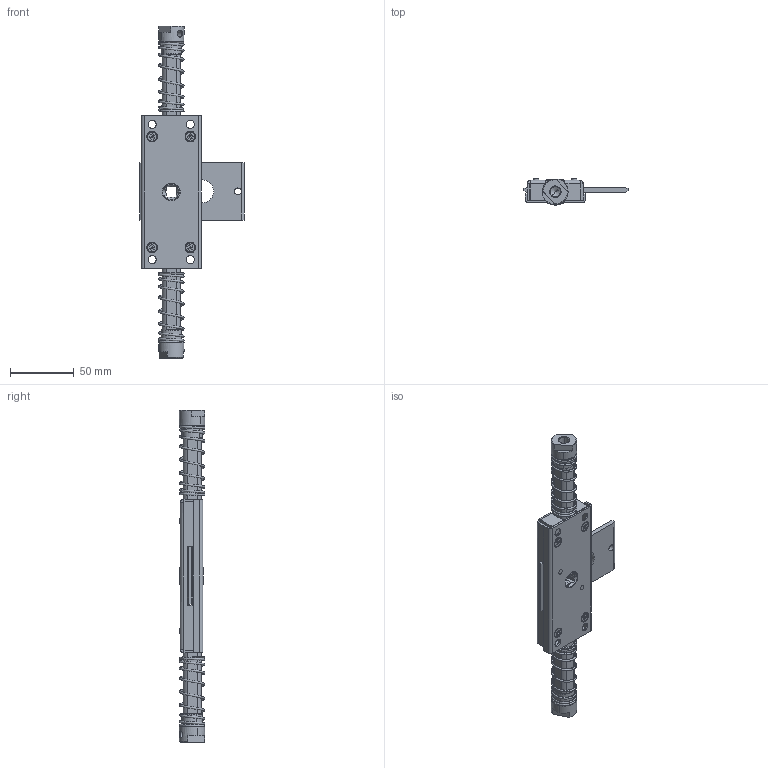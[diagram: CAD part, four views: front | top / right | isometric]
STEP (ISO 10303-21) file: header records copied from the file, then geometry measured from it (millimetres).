
FILE_DESCRIPTION (( 'STEP AP214' ), '1' );
FILE_NAME ('1B.ZW8.L - zamek wewnetrzny ZW.STEP', '2016-09-07T09:39:51', ( '' ), ( '' ), 'SwSTEP 2.0', 'SolidWorks 2015', '' );
FILE_SCHEMA (( 'AUTOMOTIVE_DESIGN' ));
Length unit declared in the file: millimetre
Products named in the file (17): 5.SP.001_A; M4_M4 x 8; 1B.SAP.000.00.03_1B.SAP.000.00.03.D8; 1B.ZW.010_A; 1B.ZW.009_B; 1B.ZW.008_A; 1B.ZW.007_A; 1B.ZW.006_B; 1B.ZW.005_B.P; 1B.ZW.005.04_A; 1B.ZW.005.03_B; 1B.ZW.005.02_A; 1B.ZW.005.01_A; 1B.ZW.003_A; 1B.ZW.001_A; 1B.ZW.002_A; 1B.ZW8.L - zamek wewnetrzny ZW
Assembly tree (25 placements, depth 3):
  1B.ZW8.L - zamek wewnetrzny ZW
    1B.ZW.002_A
    1B.ZW.001_A
    1B.ZW.003_A  x4
    1B.ZW.005_B.P  x2
      1B.ZW.005.01_A
      1B.ZW.005.02_A
      1B.ZW.005.03_B
      1B.ZW.005.04_A
    1B.ZW.006_B
    1B.ZW.007_A
    1B.ZW.008_A
    1B.ZW.009_B
    1B.ZW.010_A
    1B.SAP.000.00.03_1B.SAP.000.00.03.D8  x2
    M4_M4 x 8  x4
    5.SP.001_A  x2
Bounding box: 82 x 20.2 x 260.5 mm (x, y, z)
Volume: 84751 mm3; surface area: 72374 mm2
Topology: 27 solids, 27 shells, 700 faces, 1643 edges, 1007 vertices
Faces by surface type: plane 310, cylinder 216, cone 146, bspline 16, torus 12
Entity records: 22838 total; most frequent: CARTESIAN_POINT 11582, DIRECTION 2284, ORIENTED_EDGE 2082, EDGE_CURVE 1041, AXIS2_PLACEMENT_3D 843, VERTEX_POINT 649, LINE 598, VECTOR 598
